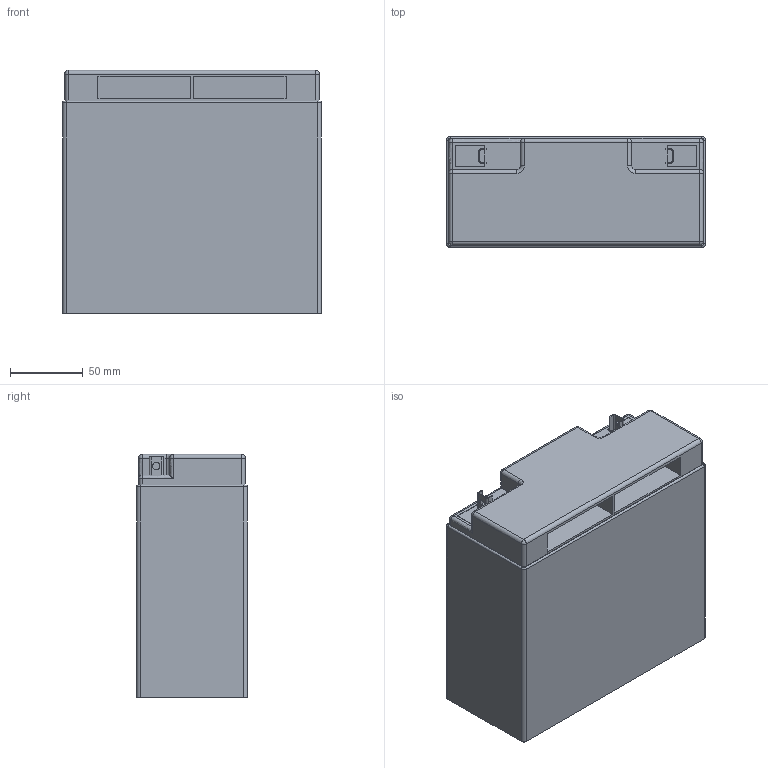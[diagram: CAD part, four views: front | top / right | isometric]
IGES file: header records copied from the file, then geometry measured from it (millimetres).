
Global section: file name: No Iges File Name specified; native system: AutoDesk Inventor R5.0; preprocessor: AutoDesk Inventor Iges Exporter R5.0; author: No Author specified; organization: No Organization specified; date: 20020113.092546; units: inch
Bounding box: 177.8 x 76.2 x 167.13 mm (x, y, z)
Surface area: 120643.9 mm2 (no closed solid volume)
Topology: 0 solids, 0 shells, 125 faces, 622 edges, 612 vertices
Faces by surface type: plane 54, revolution 47, bspline 24
